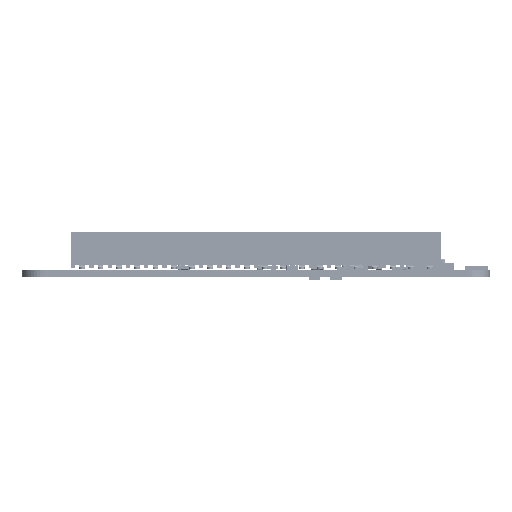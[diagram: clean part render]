
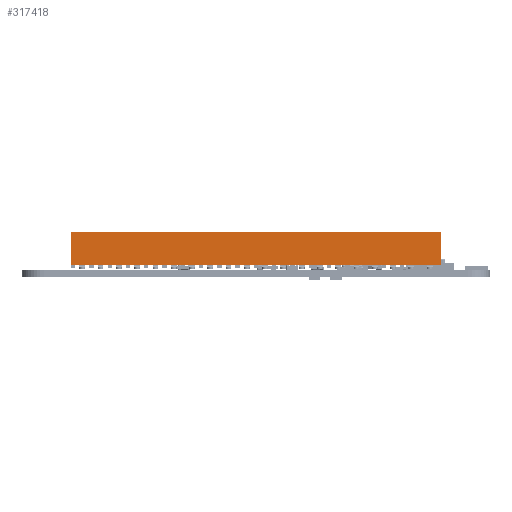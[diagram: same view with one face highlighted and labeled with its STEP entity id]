
A CAD part, front view. The second image highlights one B-rep face of the part: STEP entity #317418.
In plain terms, the highlighted planar face has unit normal (0, -1, 0) as drawn and (0, 0, 1) by its records, which use the part's own axes.
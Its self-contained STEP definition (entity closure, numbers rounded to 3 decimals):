
#277567 = PLANE('',#277568);
#277568 = AXIS2_PLACEMENT_3D('',#277569,#277570,#277571);
#277569 = CARTESIAN_POINT('',(-25.65,0.4,2.1));
#277570 = DIRECTION('',(0.,-1.,0.));
#277571 = DIRECTION('',(0.,0.,-1.));
#277592 = VERTEX_POINT('',#277593);
#277593 = CARTESIAN_POINT('',(25.65,0.4,2.6));
#277607 = PLANE('',#277608);
#277608 = AXIS2_PLACEMENT_3D('',#277609,#277610,#277611);
#277609 = CARTESIAN_POINT('',(25.65,2.52,0.)
  );
#277610 = DIRECTION('',(1.,0.,0.));
#277611 = DIRECTION('',(0.,0.,-1.));
#277619 = EDGE_CURVE('',#277620,#277592,#277622,.T.);
#277620 = VERTEX_POINT('',#277621);
#277621 = CARTESIAN_POINT('',(-25.65,0.4,2.6));
#277622 = SURFACE_CURVE('',#277623,(#277627,#277634),.PCURVE_S1.);
#277623 = LINE('',#277624,#277625);
#277624 = CARTESIAN_POINT('',(-25.65,0.4,2.6));
#277625 = VECTOR('',#277626,1.);
#277626 = DIRECTION('',(1.,0.,0.));
#277627 = PCURVE('',#277567,#277628);
#277628 = DEFINITIONAL_REPRESENTATION('',(#277629),#277633);
#277629 = LINE('',#277630,#277631);
#277630 = CARTESIAN_POINT('',(-0.5,0.));
#277631 = VECTOR('',#277632,1.);
#277632 = DIRECTION('',(0.,1.));
#277633 = ( GEOMETRIC_REPRESENTATION_CONTEXT(2) 
PARAMETRIC_REPRESENTATION_CONTEXT() REPRESENTATION_CONTEXT('2D SPACE',''
  ) );
#277634 = PCURVE('',#277635,#277640);
#277635 = PLANE('',#277636);
#277636 = AXIS2_PLACEMENT_3D('',#277637,#277638,#277639);
#277637 = CARTESIAN_POINT('',(-25.65,0.4,2.6));
#277638 = DIRECTION('',(0.,0.,1.));
#277639 = DIRECTION('',(0.,-1.,0.));
#277640 = DEFINITIONAL_REPRESENTATION('',(#277641),#277645);
#277641 = LINE('',#277642,#277643);
#277642 = CARTESIAN_POINT('',(0.,0.));
#277643 = VECTOR('',#277644,1.);
#277644 = DIRECTION('',(0.,1.));
#277645 = ( GEOMETRIC_REPRESENTATION_CONTEXT(2) 
PARAMETRIC_REPRESENTATION_CONTEXT() REPRESENTATION_CONTEXT('2D SPACE',''
  ) );
#277663 = PLANE('',#277664);
#277664 = AXIS2_PLACEMENT_3D('',#277665,#277666,#277667);
#277665 = CARTESIAN_POINT('',(-25.65,2.52,0.)
  );
#277666 = DIRECTION('',(1.,0.,0.));
#277667 = DIRECTION('',(0.,0.,-1.));
#293261 = PLANE('',#293262);
#293262 = AXIS2_PLACEMENT_3D('',#293263,#293264,#293265);
#293263 = CARTESIAN_POINT('',(-25.65,5.,2.6));
#293264 = DIRECTION('',(0.,1.,0.));
#293265 = DIRECTION('',(0.,0.,1.));
#317418 = ADVANCED_FACE('',(#317419),#277635,.T.);
#317419 = FACE_BOUND('',#317420,.T.);
#317420 = EDGE_LOOP('',(#317421,#317444,#317467,#317488));
#317421 = ORIENTED_EDGE('',*,*,#317422,.T.);
#317422 = EDGE_CURVE('',#277592,#317423,#317425,.T.);
#317423 = VERTEX_POINT('',#317424);
#317424 = CARTESIAN_POINT('',(25.65,5.,2.6));
#317425 = SURFACE_CURVE('',#317426,(#317430,#317437),.PCURVE_S1.);
#317426 = LINE('',#317427,#317428);
#317427 = CARTESIAN_POINT('',(25.65,5.,2.6));
#317428 = VECTOR('',#317429,1.);
#317429 = DIRECTION('',(0.,1.,0.));
#317430 = PCURVE('',#277635,#317431);
#317431 = DEFINITIONAL_REPRESENTATION('',(#317432),#317436);
#317432 = LINE('',#317433,#317434);
#317433 = CARTESIAN_POINT('',(-4.6,51.3));
#317434 = VECTOR('',#317435,1.);
#317435 = DIRECTION('',(-1.,0.));
#317436 = ( GEOMETRIC_REPRESENTATION_CONTEXT(2) 
PARAMETRIC_REPRESENTATION_CONTEXT() REPRESENTATION_CONTEXT('2D SPACE',''
  ) );
#317437 = PCURVE('',#277607,#317438);
#317438 = DEFINITIONAL_REPRESENTATION('',(#317439),#317443);
#317439 = LINE('',#317440,#317441);
#317440 = CARTESIAN_POINT('',(-2.6,2.48));
#317441 = VECTOR('',#317442,1.);
#317442 = DIRECTION('',(0.,1.));
#317443 = ( GEOMETRIC_REPRESENTATION_CONTEXT(2) 
PARAMETRIC_REPRESENTATION_CONTEXT() REPRESENTATION_CONTEXT('2D SPACE',''
  ) );
#317444 = ORIENTED_EDGE('',*,*,#317445,.F.);
#317445 = EDGE_CURVE('',#317446,#317423,#317448,.T.);
#317446 = VERTEX_POINT('',#317447);
#317447 = CARTESIAN_POINT('',(-25.65,5.,2.6));
#317448 = SURFACE_CURVE('',#317449,(#317453,#317460),.PCURVE_S1.);
#317449 = LINE('',#317450,#317451);
#317450 = CARTESIAN_POINT('',(-25.65,5.,2.6));
#317451 = VECTOR('',#317452,1.);
#317452 = DIRECTION('',(1.,0.,0.));
#317453 = PCURVE('',#277635,#317454);
#317454 = DEFINITIONAL_REPRESENTATION('',(#317455),#317459);
#317455 = LINE('',#317456,#317457);
#317456 = CARTESIAN_POINT('',(-4.6,0.));
#317457 = VECTOR('',#317458,1.);
#317458 = DIRECTION('',(0.,1.));
#317459 = ( GEOMETRIC_REPRESENTATION_CONTEXT(2) 
PARAMETRIC_REPRESENTATION_CONTEXT() REPRESENTATION_CONTEXT('2D SPACE',''
  ) );
#317460 = PCURVE('',#293261,#317461);
#317461 = DEFINITIONAL_REPRESENTATION('',(#317462),#317466);
#317462 = LINE('',#317463,#317464);
#317463 = CARTESIAN_POINT('',(0.,0.));
#317464 = VECTOR('',#317465,1.);
#317465 = DIRECTION('',(0.,1.));
#317466 = ( GEOMETRIC_REPRESENTATION_CONTEXT(2) 
PARAMETRIC_REPRESENTATION_CONTEXT() REPRESENTATION_CONTEXT('2D SPACE',''
  ) );
#317467 = ORIENTED_EDGE('',*,*,#317468,.T.);
#317468 = EDGE_CURVE('',#317446,#277620,#317469,.T.);
#317469 = SURFACE_CURVE('',#317470,(#317474,#317481),.PCURVE_S1.);
#317470 = LINE('',#317471,#317472);
#317471 = CARTESIAN_POINT('',(-25.65,5.,2.6));
#317472 = VECTOR('',#317473,1.);
#317473 = DIRECTION('',(0.,-1.,0.));
#317474 = PCURVE('',#277635,#317475);
#317475 = DEFINITIONAL_REPRESENTATION('',(#317476),#317480);
#317476 = LINE('',#317477,#317478);
#317477 = CARTESIAN_POINT('',(-4.6,0.));
#317478 = VECTOR('',#317479,1.);
#317479 = DIRECTION('',(1.,0.));
#317480 = ( GEOMETRIC_REPRESENTATION_CONTEXT(2) 
PARAMETRIC_REPRESENTATION_CONTEXT() REPRESENTATION_CONTEXT('2D SPACE',''
  ) );
#317481 = PCURVE('',#277663,#317482);
#317482 = DEFINITIONAL_REPRESENTATION('',(#317483),#317487);
#317483 = LINE('',#317484,#317485);
#317484 = CARTESIAN_POINT('',(-2.6,2.48));
#317485 = VECTOR('',#317486,1.);
#317486 = DIRECTION('',(0.,-1.));
#317487 = ( GEOMETRIC_REPRESENTATION_CONTEXT(2) 
PARAMETRIC_REPRESENTATION_CONTEXT() REPRESENTATION_CONTEXT('2D SPACE',''
  ) );
#317488 = ORIENTED_EDGE('',*,*,#277619,.T.);
